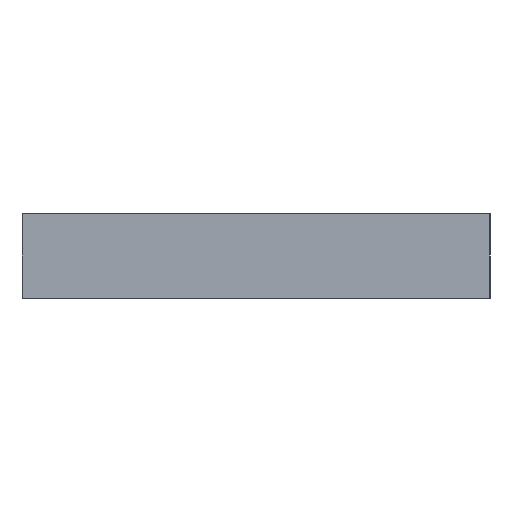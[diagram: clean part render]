
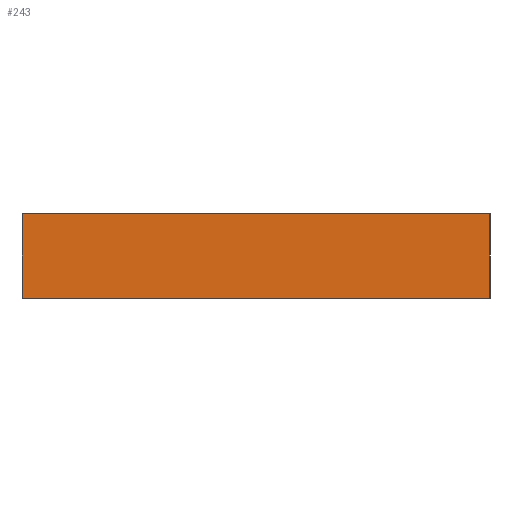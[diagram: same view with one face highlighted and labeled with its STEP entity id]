
A CAD part, left-side view. The second image highlights one B-rep face of the part: STEP entity #243.
In plain terms, the highlighted planar face has unit normal (-1, 0, 0).
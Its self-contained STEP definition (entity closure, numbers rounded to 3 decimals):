
#27 = VECTOR ( 'NONE', #611, 1000. ) ;
#35 = ORIENTED_EDGE ( 'NONE', *, *, #592, .T. ) ;
#36 = CARTESIAN_POINT ( 'NONE',  ( -847.5, 50., 18. ) ) ;
#37 = EDGE_LOOP ( 'NONE', ( #35, #426, #547, #696 ) ) ;
#41 = VERTEX_POINT ( 'NONE', #659 ) ;
#102 = EDGE_CURVE ( 'NONE', #41, #345, #387, .T. ) ;
#181 = CARTESIAN_POINT ( 'NONE',  ( -847.5, 50., 0. ) ) ;
#183 = LINE ( 'NONE', #285, #596 ) ;
#185 = VECTOR ( 'NONE', #450, 1000. ) ;
#190 = DIRECTION ( 'NONE',  ( 0., 0., -1. ) ) ;
#196 = PLANE ( 'NONE',  #687 ) ;
#201 = VERTEX_POINT ( 'NONE', #181 ) ;
#233 = DIRECTION ( 'NONE',  ( 0., -1., 0. ) ) ;
#243 = ADVANCED_FACE ( 'NONE', ( #479 ), #196, .F. ) ;
#285 = CARTESIAN_POINT ( 'NONE',  ( -847.5, 50., 18. ) ) ;
#301 = DIRECTION ( 'NONE',  ( 0., 0., -1. ) ) ;
#308 = CARTESIAN_POINT ( 'NONE',  ( -847.5, 50., 18. ) ) ;
#337 = CARTESIAN_POINT ( 'NONE',  ( -847.5, 50., 0. ) ) ;
#345 = VERTEX_POINT ( 'NONE', #531 ) ;
#387 = LINE ( 'NONE', #390, #185 ) ;
#390 = CARTESIAN_POINT ( 'NONE',  ( -847.5, -50., 18. ) ) ;
#415 = LINE ( 'NONE', #617, #648 ) ;
#426 = ORIENTED_EDGE ( 'NONE', *, *, #102, .F. ) ;
#450 = DIRECTION ( 'NONE',  ( 0., 0., -1. ) ) ;
#479 = FACE_OUTER_BOUND ( 'NONE', #37, .T. ) ;
#531 = CARTESIAN_POINT ( 'NONE',  ( -847.5, -50., 0. ) ) ;
#547 = ORIENTED_EDGE ( 'NONE', *, *, #637, .F. ) ;
#555 = LINE ( 'NONE', #337, #27 ) ;
#592 = EDGE_CURVE ( 'NONE', #201, #345, #555, .T. ) ;
#596 = VECTOR ( 'NONE', #233, 1000. ) ;
#611 = DIRECTION ( 'NONE',  ( 0., -1., 0. ) ) ;
#617 = CARTESIAN_POINT ( 'NONE',  ( -847.5, 50., 18. ) ) ;
#623 = DIRECTION ( 'NONE',  ( 1., 0., 0. ) ) ;
#637 = EDGE_CURVE ( 'NONE', #683, #41, #183, .T. ) ;
#648 = VECTOR ( 'NONE', #190, 1000. ) ;
#659 = CARTESIAN_POINT ( 'NONE',  ( -847.5, -50., 18. ) ) ;
#683 = VERTEX_POINT ( 'NONE', #308 ) ;
#687 = AXIS2_PLACEMENT_3D ( 'NONE', #36, #623, #301 ) ;
#693 = EDGE_CURVE ( 'NONE', #683, #201, #415, .T. ) ;
#696 = ORIENTED_EDGE ( 'NONE', *, *, #693, .T. ) ;
